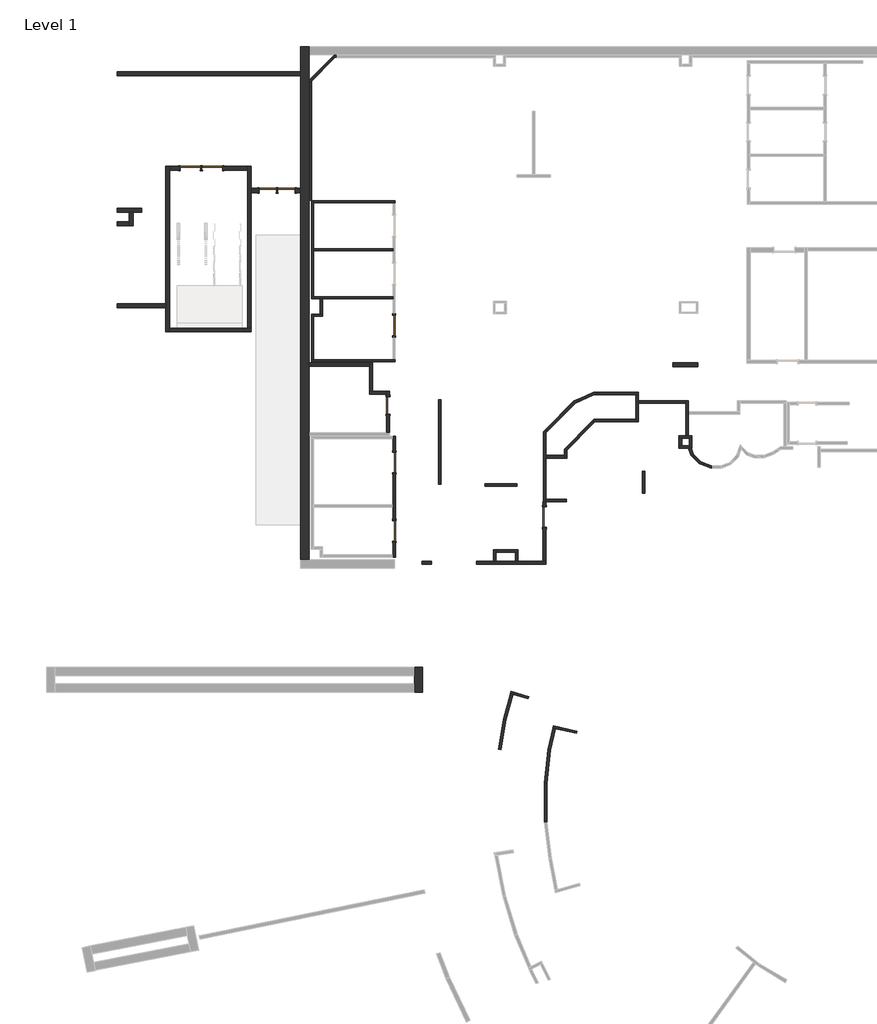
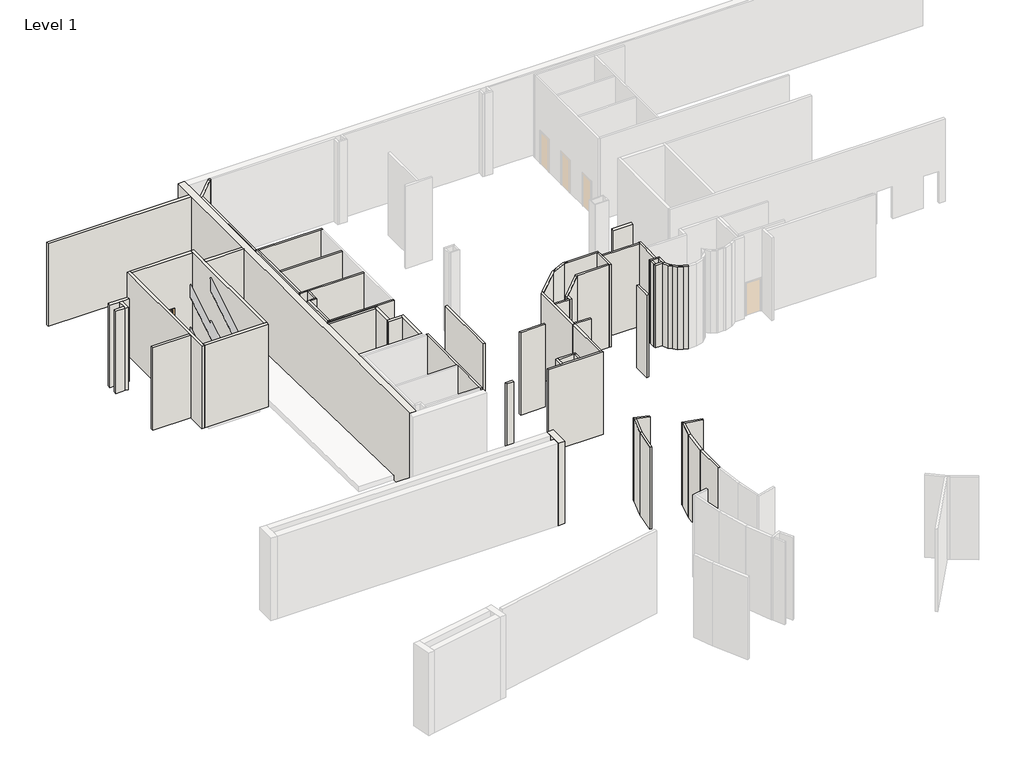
# One storey, part 4 of 10: 64 walls, 9 doors.
"""IFC4 building model written with IfcOpenShell, lengths in millimetres."""

from ifc_helpers import new_model, si_unit, frame, origin, origin_with_axes, place, context, project, spatial, polyline, outline, extrude, faceted_brep, transform, mapped, element, save
from components import door_f75d31f8, door_74220ae7, door_8244bb97, door_bd3f6991, door_55d8558a, door_9fd2ff77, door_97d772aa, door_dc1560be

model = new_model("IFC4")

# Units and contexts
model_context = context("Model", 3, world=origin())
ifc_project = project(units=[si_unit("LENGTHUNIT", "METRE", prefix="MILLI")], contexts=[model_context])

# Site, building, storey
site = spatial("IfcSite", under=ifc_project)
building = spatial("IfcBuilding", under=site)
storey = spatial("IfcBuildingStorey", under=building, Name="Level 1", Elevation=0.0)

# Doors
placement = place(None, origin())
door_shape = door_f75d31f8(model_context)
element("IfcDoor", 1, ObjectType="Single-Flush : 34\" x 84\"", at=placement, inside=storey, context=model_context, shape_type="MappedRepresentation", body=[
    mapped(door_shape, transform((-4647.4900784, 31230.8191112, 0.0), x_axis=(1.0, 0.0, 0.0), y_axis=(0.0, 1.0, 0.0), z_axis=(0.0, 0.0, 1.0))),
])
door_2_shape = door_74220ae7(model_context)
element("IfcDoor", 2, ObjectType="Single-Flush : 34\" x 84\"", at=placement, inside=storey, context=model_context, shape_type="MappedRepresentation", body=[
    mapped(door_2_shape, transform((-5552.2063534, 31230.8191112, 0.0), x_axis=(-1.0, 0.0, 0.0), y_axis=(0.0, -1.0, 0.0), z_axis=(0.0, 0.0, 1.0))),
])
door_3_shape = door_8244bb97(model_context)
element("IfcDoor", 3, ObjectType="Single-Flush : 34\" x 84\"", at=placement, inside=storey, context=model_context, shape_type="MappedRepresentation", body=[
    mapped(door_3_shape, transform((367.4225485, 20671.2949956, 0.0), x_axis=(0.0, 1.0, 0.0), y_axis=(-1.0, 0.0, 0.0), z_axis=(0.0, 0.0, 1.0))),
])
door_4_shape = door_bd3f6991(model_context)
element("IfcDoor", 4, ObjectType="Single-Flush : 36\" x 84\"", at=placement, inside=storey, context=model_context, shape_type="MappedRepresentation", body=[
    mapped(door_4_shape, transform((-8285.7226285, 32320.9079, 0.0), x_axis=(1.0, 0.0, 0.0), y_axis=(0.0, 1.0, 0.0), z_axis=(0.0, 0.0, 1.0))),
])
door_5_shape = door_55d8558a(model_context)
element("IfcDoor", 5, ObjectType="Single-Flush : 36\" x 84\"", at=placement, inside=storey, context=model_context, shape_type="MappedRepresentation", body=[
    mapped(door_5_shape, transform((661.1099216, 17860.7669718, 0.0), x_axis=(0.0, -1.0, 0.0), y_axis=(1.0, 0.0, 0.0), z_axis=(0.0, 0.0, 1.0))),
])
element("IfcDoor", 6, ObjectType="Single-Flush : 36\" x 84\"", at=placement, inside=storey, context=model_context, shape_type="MappedRepresentation", body=[
    mapped(door_5_shape, transform((661.1099216, 14499.2449096, 0.0), x_axis=(0.0, -1.0, 0.0), y_axis=(1.0, 0.0, 0.0), z_axis=(0.0, 0.0, 1.0))),
])
door_6_shape = door_9fd2ff77(model_context)
element("IfcDoor", 7, ObjectType="Single-Flush : 36\" x 84\"", at=placement, inside=storey, context=model_context, shape_type="MappedRepresentation", body=[
    mapped(door_6_shape, transform((-9352.5226285, 32320.9079, 0.0), x_axis=(-1.0, 0.0, 0.0), y_axis=(0.0, -1.0, 0.0), z_axis=(0.0, 0.0, 1.0))),
])
door_7_shape = door_97d772aa(model_context)
element("IfcDoor", 8, ObjectType="Single-Flush : 36\" x 84\"", at=placement, inside=storey, context=model_context, shape_type="MappedRepresentation", body=[
    mapped(door_7_shape, transform((660.5677298, 24591.2594628, 0.0), x_axis=(0.0, -1.0, 0.0), y_axis=(1.0, 0.0, 0.0), z_axis=(0.0, 0.0, 1.0))),
])
door_8_shape = door_dc1560be(model_context)
element("IfcDoor", 9, ObjectType="Single-Flush : 36\" x 84\"", at=placement, inside=storey, context=model_context, shape_type="MappedRepresentation", body=[
    mapped(door_8_shape, transform((8055.6849216, 15174.3992736, 0.0), x_axis=(0.0, -1.0, 0.0), y_axis=(1.0, 0.0, 0.0), z_axis=(0.0, 0.0, 1.0))),
])

# Walls
element("IfcWall", 10, ObjectType="N3A/B", at=placement, inside=storey, context=model_context, shape_type="Brep", body=[
    faceted_brep([(445.2100485, 21103.0949956, 2133.6), (445.2100485, 21103.0949956, 0.0), (445.2100485, 21358.6824956, 0.0), (445.2100485, 21358.6824956, 5486.4), (445.2100485, 19333.1824093, 5486.4), (445.2100485, 19333.1824093, 0.0), (445.2100485, 20239.4949956, 0.0), (445.2100485, 20239.4949956, 2133.6), (289.6350485, 21358.6824956, 0.0), (289.6350485, 21203.1074956, 0.0), (289.6350485, 21103.0949956, 0.0), (289.6350485, 21103.0949956, 2133.6), (289.6350485, 20239.4949956, 2133.6), (289.6350485, 20239.4949956, 0.0), (289.6350485, 19333.1824093, 0.0), (289.6350485, 19333.1824093, 5486.4), (289.6350485, 21203.1074956, 5486.4), (289.6350485, 21358.6824956, 5486.4)], [[[0, 1, 2, 3, 4, 5, 6, 7]], [[8, 9, 10, 11, 12, 13, 14, 15, 16, 17]], [[2, 1, 10, 9, 8]], [[6, 5, 14, 13]], [[4, 3, 17, 16, 15]], [[3, 2, 8, 17]], [[5, 4, 15, 14]], [[11, 10, 1, 0]], [[12, 11, 0, 7]], [[13, 12, 7, 6]]]),
])
element("IfcWall", 11, ObjectType="N3A/B", at=placement, inside=storey, context=model_context, shape_type="Brep", body=[
    faceted_brep([(289.6350485, 21358.6824956, 0.0), (-405.6900784, 21358.6824956, 0.0), (-561.2650784, 21358.6824956, 0.0), (-561.2650784, 21358.6824956, 5486.4), (-405.6900784, 21358.6824956, 5486.4), (289.6350485, 21358.6824956, 5486.4), (289.6350485, 21203.1074956, 0.0), (289.6350485, 21203.1074956, 5486.4), (-561.2650784, 21203.1074956, 5486.4), (-561.2650784, 21203.1074956, 0.0)], [[[0, 1, 2, 3, 4, 5]], [[6, 7, 8, 9]], [[2, 1, 0, 6, 9]], [[5, 4, 3, 8, 7]], [[3, 2, 9, 8]], [[0, 5, 7, 6]]]),
])
element("IfcWall", 12, ObjectType="N3A/B", at=placement, inside=storey, context=model_context, shape_type="Brep", body=[
    faceted_brep([(-405.6900784, 21358.6824956, 0.0), (-405.6900784, 22755.6824958, 0.0), (-405.6900784, 22755.6824958, 5486.4), (-405.6900784, 21358.6824956, 5486.4), (-561.2650784, 21358.6824956, 0.0), (-561.2650784, 21358.6824956, 5486.4), (-561.2650784, 22600.1074958, 5486.4), (-561.2650784, 22755.6824958, 5486.4), (-561.2650784, 22755.6824958, 0.0), (-561.2650784, 22600.1074958, 0.0)], [[[0, 1, 2, 3]], [[4, 5, 6, 7, 8, 9]], [[1, 0, 4, 9, 8]], [[3, 2, 7, 6, 5]], [[2, 1, 8, 7]], [[0, 3, 5, 4]]]),
])
element("IfcWall", 13, ObjectType="N3A/B", at=placement, inside=storey, context=model_context, shape_type="SweptSolid", body=[
    extrude(outline(polyline([(-3529.8900784, 22755.6824958), (-561.2650784, 22755.6824958), (-561.2650784, 22600.1074958), (-3529.8900784, 22600.1074958), (-3529.8900784, 22755.6824958)])), origin_with_axes(), (0.0, 0.0, 1.0), 5486.4),
])
element("IfcWall", 14, ObjectType="N3A/B", at=placement, inside=storey, context=model_context, shape_type="Brep", body=[
    faceted_brep([(4702.8849216, 12857.8760363, 0.0), (8125.5349216, 12857.8760363, 0.0), (8125.5349216, 12857.8760363, 5486.4), (4702.8849216, 12857.8760363, 5486.4), (4702.8849216, 13013.4510363, 0.0), (4702.8849216, 13013.4510363, 5486.4), (5537.9099216, 13013.4510363, 5486.4), (5661.7349216, 13013.4510363, 5486.4), (6633.2849216, 13013.4510363, 5486.4), (6757.1099216, 13013.4510363, 5486.4), (7985.8349216, 13013.4510363, 5486.4), (8125.5349216, 13013.4510363, 5486.4), (8125.5349216, 13013.4510363, 0.0), (7985.8349216, 13013.4510363, 0.0), (6757.1099216, 13013.4510363, 0.0), (6633.2849216, 13013.4510363, 0.0), (5661.7349216, 13013.4510363, 0.0), (5537.9099216, 13013.4510363, 0.0)], [[[0, 1, 2, 3]], [[4, 5, 6, 7, 8, 9, 10, 11, 12, 13, 14, 15, 16, 17]], [[1, 0, 4, 17, 16, 15, 14, 13, 12]], [[3, 2, 11, 10, 9, 8, 7, 6, 5]], [[0, 3, 5, 4]], [[2, 1, 12, 11]]]),
])
element("IfcWall", 15, ObjectType="N3A/B", at=placement, inside=storey, context=model_context, shape_type="SweptSolid", body=[
    extrude(outline(polyline([(2493.0849216, 12857.8760363), (2032.7099216, 12857.8760363), (2032.7099216, 13013.4510363), (2493.0849216, 13013.4510363), (2493.0849216, 12857.8760363)])), origin_with_axes(), (0.0, 0.0, 1.0), 5486.4),
])
element("IfcWall", 16, ObjectType="N15A/B", at=placement, inside=storey, context=model_context, shape_type="SweptSolid", body=[
    extrude(outline(polyline([(5134.0625678, 16818.8594628), (6695.1974216, 16818.8594628), (6695.1974216, 16695.0344628), (5134.0625678, 16695.0344628), (5134.0625678, 16818.8594628)])), origin_with_axes(), (0.0, 0.0, 1.0), 5486.4),
])
element("IfcWall", 17, ObjectType="F1C", at=placement, inside=storey, context=model_context, shape_type="Brep", body=[
    faceted_brep([(714.5427298, 22915.4941112, 0.0), (606.5927298, 22915.4941112, 0.0), (-3298.6705211, 22915.4941112, 0.0), (-3406.6205211, 22915.4941112, 0.0), (-3406.6205211, 22915.4941112, 5486.4), (-3298.6705211, 22915.4941112, 5486.4), (606.5927298, 22915.4941112, 5486.4), (714.5427298, 22915.4941112, 5486.4), (714.5427298, 22807.5441112, 0.0), (714.5427298, 22807.5441112, 5486.4), (-3406.6205211, 22807.5441112, 5486.4), (-3406.6205211, 22807.5441112, 0.0)], [[[0, 1, 2, 3, 4, 5, 6, 7]], [[8, 9, 10, 11]], [[3, 2, 1, 0, 8, 11]], [[7, 6, 5, 4, 10, 9]], [[4, 3, 11, 10]], [[0, 7, 9, 8]]]),
])
element("IfcWall", 18, ObjectType="F1C", at=placement, inside=storey, context=model_context, shape_type="Brep", body=[
    faceted_brep([(-3298.6705211, 22915.4941112, 0.0), (-3298.6705211, 25045.2844628, 0.0), (-3298.6705211, 25153.2344628, 0.0), (-3298.6705211, 25153.2344628, 5486.4), (-3298.6705211, 25045.2844628, 5486.4), (-3298.6705211, 22915.4941112, 5486.4), (-3406.6205211, 22915.4941112, 0.0), (-3406.6205211, 22915.4941112, 5486.4), (-3406.6205211, 25153.2344628, 5486.4), (-3406.6205211, 25153.2344628, 0.0)], [[[0, 1, 2, 3, 4, 5]], [[6, 7, 8, 9]], [[2, 1, 0, 6, 9]], [[5, 4, 3, 8, 7]], [[3, 2, 9, 8]], [[0, 5, 7, 6]]]),
])
element("IfcWall", 19, ObjectType="F1C", at=placement, inside=storey, context=model_context, shape_type="Brep", body=[
    faceted_brep([(-3298.6705211, 25045.2844628, 0.0), (-2866.8705211, 25045.2844628, 0.0), (-2866.8705211, 25045.2844628, 5486.4), (-3298.6705211, 25045.2844628, 5486.4), (-3298.6705211, 25153.2344628, 0.0), (-3298.6705211, 25153.2344628, 5486.4), (-2974.8205211, 25153.2344628, 5486.4), (-2866.8705211, 25153.2344628, 5486.4), (-2866.8705211, 25153.2344628, 0.0), (-2974.8205211, 25153.2344628, 0.0)], [[[0, 1, 2, 3]], [[4, 5, 6, 7, 8, 9]], [[1, 0, 4, 9, 8]], [[3, 2, 7, 6, 5]], [[2, 1, 8, 7]], [[0, 3, 5, 4]]]),
])
element("IfcWall", 20, ObjectType="F1C", at=placement, inside=storey, context=model_context, shape_type="SweptSolid", body=[
    extrude(outline(polyline([(-2866.8705211, 25908.8844628), (-2866.8705211, 25153.2344628), (-2974.8205211, 25153.2344628), (-2974.8205211, 25908.8844628), (-2866.8705211, 25908.8844628)])), origin_with_axes(), (0.0, 0.0, 1.0), 5486.4),
])
element("IfcWall", 21, ObjectType="F1C", at=placement, inside=storey, context=model_context, shape_type="Brep", body=[
    faceted_brep([(606.5927298, 26016.8344628, 0.0), (-3298.6705211, 26016.8344628, 0.0), (-3406.6205211, 26016.8344628, 0.0), (-3406.6205211, 26016.8344628, 5486.4), (-3298.6705211, 26016.8344628, 5486.4), (606.5927298, 26016.8344628, 5486.4), (606.5927298, 25908.8844628, 0.0), (606.5927298, 25908.8844628, 5486.4), (-2866.8705211, 25908.8844628, 5486.4), (-2974.8205211, 25908.8844628, 5486.4), (-3406.6205211, 25908.8844628, 5486.4), (-3406.6205211, 25908.8844628, 0.0), (-2974.8205211, 25908.8844628, 0.0), (-2866.8705211, 25908.8844628, 0.0)], [[[0, 1, 2, 3, 4, 5]], [[6, 7, 8, 9, 10, 11, 12, 13]], [[2, 1, 0, 6, 13, 12, 11]], [[5, 4, 3, 10, 9, 8, 7]], [[3, 2, 11, 10]], [[0, 5, 7, 6]]]),
])
element("IfcWall", 22, ObjectType="F1C", at=placement, inside=storey, context=model_context, shape_type="Brep", body=[
    faceted_brep([(-3298.6705211, 26016.8344628, 0.0), (-3298.6705211, 28263.464287, 0.0), (-3298.6705211, 28371.414287, 0.0), (-3298.6705211, 30618.0441112, 0.0), (-3298.6705211, 30725.9941112, 0.0), (-3298.6705211, 30725.9941112, 5486.4), (-3298.6705211, 30618.0441112, 5486.4), (-3298.6705211, 28371.414287, 5486.4), (-3298.6705211, 28263.464287, 5486.4), (-3298.6705211, 26016.8344628, 5486.4), (-3406.6205211, 26016.8344628, 0.0), (-3406.6205211, 26016.8344628, 5486.4), (-3406.6205211, 30725.9941112, 5486.4), (-3406.6205211, 30725.9941112, 0.0)], [[[0, 1, 2, 3, 4, 5, 6, 7, 8, 9]], [[10, 11, 12, 13]], [[4, 3, 2, 1, 0, 10, 13]], [[9, 8, 7, 6, 5, 12, 11]], [[5, 4, 13, 12]], [[0, 9, 11, 10]]]),
])
element("IfcWall", 23, ObjectType="F1C", at=placement, inside=storey, context=model_context, shape_type="Brep", body=[
    faceted_brep([(-3298.6705211, 30618.0441112, 0.0), (606.5927298, 30618.0441112, 0.0), (714.5427298, 30618.0441112, 0.0), (714.5427298, 30618.0441112, 5486.4), (606.5927298, 30618.0441112, 5486.4), (-3298.6705211, 30618.0441112, 5486.4), (-3298.6705211, 30725.9941112, 0.0), (-3298.6705211, 30725.9941112, 5486.4), (714.5427298, 30725.9941112, 5486.4), (714.5427298, 30725.9941112, 0.0)], [[[0, 1, 2, 3, 4, 5]], [[6, 7, 8, 9]], [[2, 1, 0, 6, 9]], [[5, 4, 3, 8, 7]], [[3, 2, 9, 8]], [[0, 5, 7, 6]]]),
])
element("IfcWall", 24, ObjectType="F1C", at=placement, inside=storey, context=model_context, shape_type="SweptSolid", body=[
    extrude(outline(polyline([(606.5927298, 28263.464287), (-3298.6705211, 28263.464287), (-3298.6705211, 28371.414287), (606.5927298, 28371.414287), (606.5927298, 28263.464287)])), origin_with_axes(), (0.0, 0.0, 1.0), 5486.4),
])
element("IfcWall", 25, ObjectType="F1C", at=placement, inside=storey, context=model_context, shape_type="Brep", body=[
    faceted_brep([(-2184.8718916, 37874.3978474, 0.0), (-2283.5612456, 37874.3978474, 0.0), (-2283.5612456, 37874.3978474, 5486.4), (-2184.8718916, 37874.3978474, 5486.4), (-2184.8718916, 37766.4478474, 0.0), (-2184.8718916, 37766.4478474, 5486.4), (-2238.8468916, 37766.4478474, 5486.4), (-2391.5112456, 37766.4478474, 5486.4), (-2391.5112456, 37766.4478474, 0.0), (-2238.8468916, 37766.4478474, 0.0)], [[[0, 1, 2, 3]], [[4, 5, 6, 7, 8, 9]], [[1, 0, 4, 9, 8]], [[3, 2, 7, 6, 5]], [[0, 3, 5, 4]], [[2, 1, 8, 7]]]),
])
element("IfcWall", 26, ObjectType="F1C", at=placement, inside=storey, context=model_context, shape_type="Brep", body=[
    faceted_brep([(-2391.5112456, 37766.4478474, 0.0), (-3498.6955211, 36659.263572, 0.0), (-3498.6955211, 36659.263572, 5486.4), (-2391.5112456, 37766.4478474, 5486.4), (-2238.8468916, 37766.4478474, 0.0), (-2238.8468916, 37766.4478474, 5486.4), (-3390.7455211, 36614.5492179, 5486.4), (-3498.6955211, 36506.5992179, 5486.4), (-3498.6955211, 36506.5992179, 0.0), (-3390.7455211, 36614.5492179, 0.0)], [[[0, 1, 2, 3]], [[4, 5, 6, 7, 8, 9]], [[1, 0, 4, 9, 8]], [[3, 2, 7, 6, 5]], [[2, 1, 8, 7]], [[0, 3, 5, 4]]]),
])
element("IfcWall", 27, ObjectType="F1C", at=placement, inside=storey, context=model_context, shape_type="SweptSolid", body=[
    extrude(outline(polyline([(-3498.6955211, 30744.106395), (-3498.6955211, 36506.5992179), (-3390.7455211, 36614.5492179), (-3390.7455211, 30744.106395), (-3498.6955211, 30744.106395)])), origin_with_axes(), (0.0, 0.0, 1.0), 5486.4),
])
element("IfcWall", 28, ObjectType="F4A", at=placement, inside=storey, context=model_context, shape_type="Brep", body=[
    faceted_brep([(8467.3225039, 4808.3640344, 0.0), (8587.9738772, 4780.5094701, 0.0), (9616.6041749, 4543.031454, 0.0), (9616.6041749, 4543.031454, 5486.4), (8587.9738772, 4780.5094701, 5486.4), (8467.3225039, 4808.3640344, 5486.4), (8495.1770682, 4929.0154077, 0.0), (8495.1770682, 4929.0154077, 5486.4), (9644.4587392, 4663.6828272, 5486.4), (9644.4587392, 4663.6828272, 0.0)], [[[0, 1, 2, 3, 4, 5]], [[6, 7, 8, 9]], [[2, 1, 0, 6, 9]], [[3, 2, 9, 8]], [[5, 4, 3, 8, 7]], [[0, 5, 7, 6]]]),
])
element("IfcWall", 29, ObjectType="F4A", at=placement, inside=storey, context=model_context, shape_type="Brep", body=[
    faceted_brep([(6381.3388805, 6487.5593194, 0.0), (6500.36711, 6453.4285238, 0.0), (7246.5825488, 6239.45469, 0.0), (7246.5825488, 6239.45469, 5486.4), (6500.36711, 6453.4285238, 5486.4), (6381.3388805, 6487.5593194, 5486.4), (6415.4696761, 6606.5875489, 0.0), (6415.4696761, 6606.5875489, 5486.4), (7280.7133444, 6358.4829195, 5486.4), (7280.7133444, 6358.4829195, 0.0)], [[[0, 1, 2, 3, 4, 5]], [[6, 7, 8, 9]], [[2, 1, 0, 6, 9]], [[3, 2, 9, 8]], [[5, 4, 3, 8, 7]], [[0, 5, 7, 6]]]),
])
element("IfcWall", 30, ObjectType="F4A", at=placement, inside=storey, context=model_context, shape_type="Brep", body=[
    faceted_brep([(8117.5974216, 15936.3992736, 0.0), (8117.5974216, 15940.635889, 0.0), (8117.5974216, 16048.585889, 0.0), (8117.5974216, 18080.2048863, 0.0), (8117.5974216, 18204.0298863, 0.0), (8117.5974216, 19326.3351564, 0.0), (8117.5974216, 19501.4501508, 0.0), (8117.5974216, 19501.4501508, 5486.4), (8117.5974216, 19326.3351564, 5486.4), (8117.5974216, 18204.0298863, 5486.4), (8117.5974216, 18080.2048863, 5486.4), (8117.5974216, 16048.585889, 5486.4), (8117.5974216, 15940.635889, 5486.4), (8117.5974216, 15936.3992736, 5486.4), (7993.7724216, 15936.3992736, 0.0), (7993.7724216, 15936.3992736, 5486.4), (7993.7724216, 19377.6251508, 5486.4), (7993.7724216, 19377.6251508, 0.0)], [[[0, 1, 2, 3, 4, 5, 6, 7, 8, 9, 10, 11, 12, 13]], [[14, 15, 16, 17]], [[6, 5, 4, 3, 2, 1, 0, 14, 17]], [[13, 12, 11, 10, 9, 8, 7, 16, 15]], [[0, 13, 15, 14]], [[7, 6, 17, 16]]]),
])
element("IfcWall", 31, ObjectType="F4A", at=placement, inside=storey, context=model_context, shape_type="Brep", body=[
    faceted_brep([(8117.5974216, 19326.3351564, 0.0), (9570.4499877, 20779.1877225, 0.0), (9814.7728891, 21023.5106238, 0.0), (9814.7728891, 21023.5106238, 5486.4), (9570.4499877, 20779.1877225, 5486.4), (8117.5974216, 19326.3351564, 5486.4), (8117.5974216, 19501.4501508, 0.0), (8117.5974216, 19501.4501508, 5486.4), (9499.1203134, 20882.9730426, 5486.4), (9499.1203134, 20882.9730426, 0.0)], [[[0, 1, 2, 3, 4, 5]], [[6, 7, 8, 9]], [[2, 1, 0, 6, 9]], [[5, 4, 3, 8, 7]], [[3, 2, 9, 8]], [[0, 5, 7, 6]]]),
])
element("IfcWall", 32, ObjectType="F4A", at=placement, inside=storey, context=model_context, shape_type="Brep", body=[
    faceted_brep([(9570.4499877, 20779.1877225, 0.0), (10485.5081251, 21186.597854, 0.0), (10763.6236287, 21310.422854, 0.0), (10763.6236287, 21310.422854, 5486.4), (10485.5081251, 21186.597854, 5486.4), (9570.4499877, 20779.1877225, 5486.4), (9814.7728891, 21023.5106238, 0.0), (9814.7728891, 21023.5106238, 5486.4), (10459.1883089, 21310.422854, 5486.4), (10459.1883089, 21310.422854, 0.0)], [[[0, 1, 2, 3, 4, 5]], [[6, 7, 8, 9]], [[2, 1, 0, 6, 9]], [[5, 4, 3, 8, 7]], [[3, 2, 9, 8]], [[0, 5, 7, 6]]]),
])
element("IfcWall", 33, ObjectType="F4A", at=placement, inside=storey, context=model_context, shape_type="Brep", body=[
    faceted_brep([(12662.6099216, 21310.422854, 0.0), (10763.6236287, 21310.422854, 0.0), (10763.6236287, 21310.422854, 5486.4), (12662.6099216, 21310.422854, 5486.4), (12662.6099216, 21186.597854, 0.0), (12662.6099216, 21186.597854, 5486.4), (12538.7849216, 21186.597854, 5486.4), (10485.5081251, 21186.597854, 5486.4), (10485.5081251, 21186.597854, 0.0), (12538.7849216, 21186.597854, 0.0)], [[[0, 1, 2, 3]], [[4, 5, 6, 7, 8, 9]], [[1, 0, 4, 9, 8]], [[3, 2, 7, 6, 5]], [[0, 3, 5, 4]], [[2, 1, 8, 7]]]),
])
element("IfcWall", 34, ObjectType="F4A", at=placement, inside=storey, context=model_context, shape_type="Brep", body=[
    faceted_brep([(12538.7849216, 21186.597854, 0.0), (12538.7849216, 19978.5103534, 0.0), (12538.7849216, 19854.6853534, 0.0), (12538.7849216, 19854.6853534, 5486.4), (12538.7849216, 19978.5103534, 5486.4), (12538.7849216, 21186.597854, 5486.4), (12662.6099216, 21186.597854, 0.0), (12662.6099216, 21186.597854, 5486.4), (12662.6099216, 20904.022854, 5486.4), (12662.6099216, 20780.197854, 5486.4), (12662.6099216, 19854.6853534, 5486.4), (12662.6099216, 19854.6853534, 0.0), (12662.6099216, 20780.197854, 0.0), (12662.6099216, 20904.022854, 0.0)], [[[0, 1, 2, 3, 4, 5]], [[6, 7, 8, 9, 10, 11, 12, 13]], [[2, 1, 0, 6, 13, 12, 11]], [[5, 4, 3, 10, 9, 8, 7]], [[3, 2, 11, 10]], [[0, 5, 7, 6]]]),
])
element("IfcWall", 35, ObjectType="F4A", at=placement, inside=storey, context=model_context, shape_type="Brep", body=[
    faceted_brep([(12538.7849216, 19978.5103534, 0.0), (10478.2663278, 19978.5103534, 0.0), (10478.2663278, 19978.5103534, 5486.4), (12538.7849216, 19978.5103534, 5486.4), (12538.7849216, 19854.6853534, 0.0), (12538.7849216, 19854.6853534, 5486.4), (10529.5563222, 19854.6853534, 5486.4), (10354.4413278, 19854.6853534, 5486.4), (10354.4413278, 19854.6853534, 0.0), (10529.5563222, 19854.6853534, 0.0)], [[[0, 1, 2, 3]], [[4, 5, 6, 7, 8, 9]], [[1, 0, 4, 9, 8]], [[3, 2, 7, 6, 5]], [[2, 1, 8, 7]], [[0, 3, 5, 4]]]),
])
element("IfcWall", 36, ObjectType="F4A", at=placement, inside=storey, context=model_context, shape_type="Brep", body=[
    faceted_brep([(10354.4413278, 19854.6853534, 0.0), (9023.1183578, 18523.3623835, 0.0), (9023.1183578, 18523.3623835, 5486.4), (10354.4413278, 19854.6853534, 5486.4), (10529.5563222, 19854.6853534, 0.0), (10529.5563222, 19854.6853534, 5486.4), (9146.9433578, 18472.0723891, 5486.4), (9023.1183578, 18348.2473891, 5486.4), (9023.1183578, 18348.2473891, 0.0), (9146.9433578, 18472.0723891, 0.0)], [[[0, 1, 2, 3]], [[4, 5, 6, 7, 8, 9]], [[1, 0, 4, 9, 8]], [[3, 2, 7, 6, 5]], [[2, 1, 8, 7]], [[0, 3, 5, 4]]]),
])
element("IfcWall", 37, ObjectType="F4A", at=placement, inside=storey, context=model_context, shape_type="Brep", body=[
    faceted_brep([(9023.1183578, 18348.2473891, 0.0), (9023.1183578, 18204.0298863, 0.0), (9023.1183578, 18080.2048863, 0.0), (9023.1183578, 18080.2048863, 5486.4), (9023.1183578, 18204.0298863, 5486.4), (9023.1183578, 18348.2473891, 5486.4), (9146.9433578, 18472.0723891, 0.0), (9146.9433578, 18472.0723891, 5486.4), (9146.9433578, 18080.2048863, 5486.4), (9146.9433578, 18080.2048863, 0.0)], [[[0, 1, 2, 3, 4, 5]], [[6, 7, 8, 9]], [[2, 1, 0, 6, 9]], [[5, 4, 3, 8, 7]], [[3, 2, 9, 8]], [[0, 5, 7, 6]]]),
])
element("IfcWall", 38, ObjectType="F4A", at=placement, inside=storey, context=model_context, shape_type="SweptSolid", body=[
    extrude(outline(polyline([(9023.1183578, 18080.2048863), (8117.5974216, 18080.2048863), (8117.5974216, 18204.0298863), (9023.1183578, 18204.0298863), (9023.1183578, 18080.2048863)])), origin_with_axes(), (0.0, 0.0, 1.0), 5486.4),
])
element("IfcWall", 39, ObjectType="F4A", at=placement, inside=storey, context=model_context, shape_type="Brep", body=[
    faceted_brep([(14994.638178, 20903.9188361, 0.0), (14994.638178, 19184.7602765, 0.0), (14994.638178, 19184.7602765, 5486.4), (14994.638178, 20903.9188361, 5486.4), (15118.463178, 20903.9188361, 0.0), (15118.463178, 20903.9188361, 5486.4), (15118.463178, 20365.8603386, 5486.4), (15118.463178, 20242.0353386, 5486.4), (15118.463178, 19184.7602765, 5486.4), (15118.463178, 19184.7602765, 0.0), (15118.463178, 20242.0353386, 0.0), (15118.463178, 20365.8603386, 0.0)], [[[0, 1, 2, 3]], [[4, 5, 6, 7, 8, 9, 10, 11]], [[1, 0, 4, 11, 10, 9]], [[3, 2, 8, 7, 6, 5]], [[0, 3, 5, 4]], [[2, 1, 9, 8]]]),
])
element("IfcWall", 40, ObjectType="F4A", at=placement, inside=storey, context=model_context, shape_type="SweptSolid", body=[
    extrude(outline(polyline([(6026.2975054, 5249.3828999), (6381.3388805, 6487.5593194), (6500.36711, 6453.4285238), (6147.4132638, 5222.5321827), (6026.2975054, 5249.3828999)])), origin_with_axes(), (0.0, 0.0, 1.0), 5486.4),
])
element("IfcWall", 41, ObjectType="F4A", at=placement, inside=storey, context=model_context, shape_type="SweptSolid", body=[
    extrude(outline(polyline([(5791.2724409, 3765.4930429), (6026.2975054, 5249.3828999), (6147.4132638, 5222.5321827), (5913.5729497, 3746.1225453), (5791.2724409, 3765.4930429)])), origin_with_axes(), (0.0, 0.0, 1.0), 5486.4),
])
element("IfcWall", 42, ObjectType="F4A", at=placement, inside=storey, context=model_context, shape_type="Brep", body=[
    faceted_brep([(14673.9724271, 19060.9352765, 0.0), (14797.7974271, 19060.9352765, 0.0), (15175.6224271, 19060.9352765, 0.0), (15299.4474271, 19060.9352765, 0.0), (15299.4474271, 19060.9352765, 5486.4), (15175.6224271, 19060.9352765, 5486.4), (14797.7974271, 19060.9352765, 5486.4), (14673.9724271, 19060.9352765, 5486.4), (14673.9724271, 19184.7602765, 0.0), (14673.9724271, 19184.7602765, 5486.4), (14994.638178, 19184.7602765, 5486.4), (15118.463178, 19184.7602765, 5486.4), (15299.4474271, 19184.7602765, 5486.4), (15299.4474271, 19184.7602765, 0.0), (15118.463178, 19184.7602765, 0.0), (14994.638178, 19184.7602765, 0.0)], [[[0, 1, 2, 3, 4, 5, 6, 7]], [[8, 9, 10, 11, 12, 13, 14, 15]], [[3, 2, 1, 0, 8, 15, 14, 13]], [[7, 6, 5, 4, 12, 11, 10, 9]], [[4, 3, 13, 12]], [[0, 7, 9, 8]]]),
])
element("IfcWall", 43, ObjectType="F4A", at=placement, inside=storey, context=model_context, shape_type="Brep", body=[
    faceted_brep([(15175.6224271, 19060.9352765, 0.0), (15175.6224271, 18683.1102765, 0.0), (15175.6224271, 18559.2852765, 0.0), (15175.6224271, 18559.2852765, 5486.4), (15175.6224271, 18683.1102765, 5486.4), (15175.6224271, 19060.9352765, 5486.4), (15299.4474271, 19060.9352765, 0.0), (15299.4474271, 19060.9352765, 5486.4), (15299.4474271, 18559.2852765, 5486.4), (15299.4474271, 18559.2852765, 0.0)], [[[0, 1, 2, 3, 4, 5]], [[6, 7, 8, 9]], [[2, 1, 0, 6, 9]], [[5, 4, 3, 8, 7]], [[3, 2, 9, 8]], [[0, 5, 7, 6]]]),
])
element("IfcWall", 44, ObjectType="F4A", at=placement, inside=storey, context=model_context, shape_type="Brep", body=[
    faceted_brep([(15175.6224271, 18683.1102765, 0.0), (14797.7974271, 18683.1102765, 0.0), (14673.9724271, 18683.1102765, 0.0), (14673.9724271, 18683.1102765, 5486.4), (14797.7974271, 18683.1102765, 5486.4), (15175.6224271, 18683.1102765, 5486.4), (15175.6224271, 18559.2852765, 0.0), (15175.6224271, 18559.2852765, 5486.4), (15132.2708279, 18559.2852765, 5486.4), (14673.9724271, 18559.2852765, 5486.4), (14673.9724271, 18559.2852765, 0.0), (15132.2708279, 18559.2852765, 0.0)], [[[0, 1, 2, 3, 4, 5]], [[6, 7, 8, 9, 10, 11]], [[2, 1, 0, 6, 11, 10]], [[5, 4, 3, 9, 8, 7]], [[3, 2, 10, 9]], [[0, 5, 7, 6]]]),
])
element("IfcWall", 45, ObjectType="F4A", at=placement, inside=storey, context=model_context, shape_type="SweptSolid", body=[
    extrude(outline(polyline([(14797.7974271, 19060.9352765), (14797.7974271, 18683.1102765), (14673.9724271, 18683.1102765), (14673.9724271, 19060.9352765), (14797.7974271, 19060.9352765)])), origin_with_axes(), (0.0, 0.0, 1.0), 5486.4),
])
element("IfcWall", 46, ObjectType="F4A", at=placement, inside=storey, context=model_context, shape_type="Brep", body=[
    faceted_brep([(15132.2708279, 18559.2852765, 0.0), (15261.1351499, 18205.2334617, 0.0), (15261.1351499, 18205.2334617, 5486.4), (15132.2708279, 18559.2852765, 5486.4), (15264.0426406, 18559.2852765, 0.0), (15264.0426406, 18559.2852765, 5486.4), (15368.1036768, 18273.3799291, 5486.4), (15468.3138383, 17998.0547732, 5486.4), (15468.3138383, 17998.0547732, 0.0), (15368.1036768, 18273.3799291, 0.0), (15175.6224271, 18559.2852765, 0.0), (15175.6224271, 18559.2852765, 5486.4)], [[[0, 1, 2, 3]], [[4, 5, 6, 7, 8, 9]], [[1, 0, 10, 4, 9, 8]], [[3, 2, 7, 6, 5, 11]], [[2, 1, 8, 7]], [[0, 3, 11, 5, 4, 10]]]),
])
element("IfcWall", 47, ObjectType="F4A", at=placement, inside=storey, context=model_context, shape_type="Brep", body=[
    faceted_brep([(15468.3138383, 17998.0547732, 0.0), (15675.677449, 17790.6911626, 0.0), (15675.677449, 17790.6911626, 5486.4), (15468.3138383, 17998.0547732, 5486.4), (15368.1036768, 18273.3799291, 0.0), (15368.1036768, 18273.3799291, 5486.4), (15743.8239164, 17897.6596895, 5486.4), (15951.0026048, 17690.4810011, 5486.4), (15951.0026048, 17690.4810011, 0.0), (15743.8239164, 17897.6596895, 0.0)], [[[0, 1, 2, 3]], [[4, 5, 6, 7, 8, 9]], [[1, 0, 4, 9, 8]], [[3, 2, 7, 6, 5]], [[2, 1, 8, 7]], [[0, 3, 5, 4]]]),
])
element("IfcWall", 48, ObjectType="F4A", at=placement, inside=storey, context=model_context, shape_type="SweptSolid", body=[
    extrude(outline(polyline([(16247.8022675, 17582.4547583), (15951.0026048, 17690.4810011), (15743.8239164, 17897.6596895), (16269.6359559, 17706.2797583), (16247.8022675, 17582.4547583)])), origin_with_axes(), (0.0, 0.0, 1.0), 5486.4),
])
element("IfcWall", 49, ObjectType="F4A", at=placement, inside=storey, context=model_context, shape_type="SweptSolid", body=[
    extrude(outline(polyline([(12872.4029184, 16357.4228474), (12872.4029184, 17424.2228474), (12996.2279184, 17424.2228474), (12996.2279184, 16357.4228474), (12872.4029184, 16357.4228474)])), origin_with_axes(), (0.0, 0.0, 1.0), 5486.4),
])
element("IfcWall", 50, ObjectType="F4A", at=placement, inside=storey, context=model_context, shape_type="SweptSolid", body=[
    extrude(outline(polyline([(8165.7295157, 2107.5519704), (8165.7295157, 184.3110924), (8041.9045157, 176.7376309), (8041.9045157, 2114.2967528), (8165.7295157, 2107.5519704)])), origin_with_axes(), (0.0, 0.0, 1.0), 5486.4),
])
element("IfcWall", 51, ObjectType="F4A", at=placement, inside=storey, context=model_context, shape_type="SweptSolid", body=[
    extrude(outline(polyline([(8340.8145837, 3709.9449533), (8165.7295157, 2107.5519704), (8041.9045157, 2114.2967528), (8218.5170459, 3730.6691956), (8340.8145837, 3709.9449533)])), origin_with_axes(), (0.0, 0.0, 1.0), 5486.4),
])
element("IfcWall", 52, ObjectType="F4A", at=placement, inside=storey, context=model_context, shape_type="SweptSolid", body=[
    extrude(outline(polyline([(8587.9738772, 4780.5094701), (8340.8145837, 3709.9449533), (8218.5170459, 3730.6691956), (8467.3225039, 4808.3640344), (8587.9738772, 4780.5094701)])), origin_with_axes(), (0.0, 0.0, 1.0), 5486.4),
])
element("IfcWall", 53, ObjectType="F5B", at=placement, inside=storey, context=model_context, shape_type="SweptSolid", body=[
    extrude(outline(polyline([(8117.5974216, 16048.585889), (9134.6294844, 16048.585889), (9134.6294844, 15940.635889), (8117.5974216, 15940.635889), (8117.5974216, 16048.585889)])), origin_with_axes(), (0.0, 0.0, 1.0), 5486.4),
])
element("IfcWall", 54, ObjectType="N11A", at=placement, inside=storey, context=model_context, shape_type="SweptSolid", body=[
    extrude(outline(polyline([(14988.2974216, 20780.197854), (12662.6099216, 20780.197854), (12662.6099216, 20904.022854), (14988.2974216, 20904.022854), (14988.2974216, 20780.197854)])), origin_with_axes(), (0.0, 0.0, 1.0), 5486.4),
])
element("IfcWall", 55, ObjectType="N11C2", at=placement, inside=storey, context=model_context, shape_type="Brep", body=[
    faceted_brep([(7985.8349216, 14666.3992736, 2133.6), (7985.8349216, 14666.3992736, 0.0), (7985.8349216, 13013.4510363, 0.0), (7985.8349216, 13013.4510363, 5486.4), (7985.8349216, 15936.3992736, 5486.4), (7985.8349216, 15936.3992736, 0.0), (7985.8349216, 15682.3992736, 0.0), (7985.8349216, 15682.3992736, 2133.6), (8125.5349216, 13013.4510363, 0.0), (8125.5349216, 14666.3992736, 0.0), (8125.5349216, 14666.3992736, 2133.6), (8125.5349216, 15682.3992736, 2133.6), (8125.5349216, 15682.3992736, 0.0), (8125.5349216, 15936.3992736, 0.0), (8125.5349216, 15936.3992736, 5486.4), (8125.5349216, 13013.4510363, 5486.4), (7993.7724216, 15936.3992736, 0.0), (8117.5974216, 15936.3992736, 0.0), (8117.5974216, 15936.3992736, 5486.4), (7993.7724216, 15936.3992736, 5486.4)], [[[0, 1, 2, 3, 4, 5, 6, 7]], [[8, 9, 10, 11, 12, 13, 14, 15]], [[2, 1, 9, 8]], [[6, 5, 16, 17, 13, 12]], [[4, 3, 15, 14, 18, 19]], [[5, 4, 19, 18, 14, 13, 17, 16]], [[3, 2, 8, 15]], [[10, 9, 1, 0]], [[11, 10, 0, 7]], [[12, 11, 7, 6]]]),
])
element("IfcWall", 56, ObjectType="N13C", at=placement, inside=storey, context=model_context, shape_type="SweptSolid", body=[
    extrude(outline(polyline([(15596.3099216, 22573.8650535), (14377.1099216, 22573.8650535), (14377.1099216, 22758.0150535), (15596.3099216, 22758.0150535), (15596.3099216, 22573.8650535)])), origin_with_axes(), (0.0, 0.0, 1.0), 5486.4),
])
element("IfcWall", 57, ObjectType="N16A", at=placement, inside=storey, context=model_context, shape_type="SweptSolid", body=[
    extrude(outline(polyline([(2848.0623147, 16793.4594628), (2848.0623147, 20933.6594628), (2971.8873147, 20933.6594628), (2971.8873147, 16793.4594628), (2848.0623147, 16793.4594628)])), origin_with_axes(), (0.0, 0.0, 1.0), 5486.4),
])
element("IfcWall", 58, ObjectType="N1A", at=placement, inside=storey, context=model_context, shape_type="Brep", body=[
    faceted_brep([(723.0224216, 13214.1544718, 0.0), (723.0224216, 13991.2449096, 0.0), (723.0224216, 13991.2449096, 2133.6), (723.0224216, 15007.2449096, 2133.6), (723.0224216, 15007.2449096, 0.0), (723.0224216, 17352.7669718, 0.0), (723.0224216, 17352.7669718, 2133.6), (723.0224216, 18368.7669718, 2133.6), (723.0224216, 18368.7669718, 0.0), (723.0224216, 19141.8794718, 0.0), (723.0224216, 19141.8794718, 5486.4), (723.0224216, 13214.1544718, 5486.4), (599.1974216, 13991.2449096, 2133.6), (599.1974216, 13991.2449096, 0.0), (599.1974216, 13337.9794718, 0.0), (599.1974216, 13214.1544718, 0.0), (599.1974216, 13214.1544718, 5486.4), (599.1974216, 13337.9794718, 5486.4), (599.1974216, 15660.5103474, 5486.4), (599.1974216, 15784.3353474, 5486.4), (599.1974216, 19018.0544718, 5486.4), (599.1974216, 19141.8794718, 5486.4), (599.1974216, 19141.8794718, 0.0), (599.1974216, 19018.0544718, 0.0), (599.1974216, 18368.7669718, 0.0), (599.1974216, 18368.7669718, 2133.6), (599.1974216, 17352.7669718, 2133.6), (599.1974216, 17352.7669718, 0.0), (599.1974216, 15784.3353474, 0.0), (599.1974216, 15660.5103474, 0.0), (599.1974216, 15007.2449096, 0.0), (599.1974216, 15007.2449096, 2133.6)], [[[0, 1, 2, 3, 4, 5, 6, 7, 8, 9, 10, 11]], [[12, 13, 14, 15, 16, 17, 18, 19, 20, 21, 22, 23, 24, 25, 26, 27, 28, 29, 30, 31]], [[15, 14, 13, 1, 0]], [[24, 23, 22, 9, 8]], [[30, 29, 28, 27, 5, 4]], [[11, 10, 21, 20, 19, 18, 17, 16]], [[10, 9, 22, 21]], [[0, 11, 16, 15]], [[6, 5, 27, 26]], [[7, 6, 26, 25]], [[8, 7, 25, 24]], [[2, 1, 13, 12]], [[3, 2, 12, 31]], [[4, 3, 31, 30]]]),
])
element("IfcWall", 59, ObjectType="N1A", at=placement, inside=storey, context=model_context, shape_type="Brep", body=[
    faceted_brep([(5661.7349216, 13013.4510363, 0.0), (5661.7349216, 13443.7888474, 0.0), (5661.7349216, 13567.6138474, 0.0), (5661.7349216, 13567.6138474, 5486.4), (5661.7349216, 13443.7888474, 5486.4), (5661.7349216, 13013.4510363, 5486.4), (5537.9099216, 13013.4510363, 0.0), (5537.9099216, 13013.4510363, 5486.4), (5537.9099216, 13567.6138474, 5486.4), (5537.9099216, 13567.6138474, 0.0)], [[[0, 1, 2, 3, 4, 5]], [[6, 7, 8, 9]], [[2, 1, 0, 6, 9]], [[5, 4, 3, 8, 7]], [[3, 2, 9, 8]], [[0, 5, 7, 6]]]),
])
element("IfcWall", 60, ObjectType="N1A", at=placement, inside=storey, context=model_context, shape_type="Brep", body=[
    faceted_brep([(5661.7349216, 13443.7888474, 0.0), (6633.2849216, 13443.7888474, 0.0), (6757.1099216, 13443.7888474, 0.0), (6757.1099216, 13443.7888474, 5486.4), (6633.2849216, 13443.7888474, 5486.4), (5661.7349216, 13443.7888474, 5486.4), (5661.7349216, 13567.6138474, 0.0), (5661.7349216, 13567.6138474, 5486.4), (6757.1099216, 13567.6138474, 5486.4), (6757.1099216, 13567.6138474, 0.0)], [[[0, 1, 2, 3, 4, 5]], [[6, 7, 8, 9]], [[2, 1, 0, 6, 9]], [[5, 4, 3, 8, 7]], [[3, 2, 9, 8]], [[0, 5, 7, 6]]]),
])
element("IfcWall", 61, ObjectType="N1A", at=placement, inside=storey, context=model_context, shape_type="SweptSolid", body=[
    extrude(outline(polyline([(6633.2849216, 13013.4510363), (6633.2849216, 13443.7888474), (6757.1099216, 13443.7888474), (6757.1099216, 13013.4510363), (6633.2849216, 13013.4510363)])), origin_with_axes(), (0.0, 0.0, 1.0), 5486.4),
])
element("IfcWall", 62, ObjectType="N1B", at=placement, inside=storey, context=model_context, shape_type="SweptSolid", body=[
    extrude(outline(polyline([(-3961.3009364, 36878.5219957), (-12952.9009364, 36878.5219957), (-12952.9009364, 37062.6719957), (-3961.3009364, 37062.6719957), (-3961.3009364, 36878.5219957)])), origin_with_axes(), (0.0, 0.0, 1.0), 5486.4),
])
element("IfcWall", 63, ObjectType="N1B", at=placement, inside=storey, context=model_context, shape_type="Brep", body=[
    faceted_brep([(-10568.4838985, 32412.9829, 0.0), (-10568.4838985, 25649.8760638, 0.0), (-10568.4838985, 25465.7260638, 0.0), (-10568.4838985, 24278.8640388, 0.0), (-10568.4838985, 24278.8640388, 5486.4), (-10568.4838985, 25465.7260638, 5486.4), (-10568.4838985, 25649.8760638, 5486.4), (-10568.4838985, 32412.9829, 5486.4), (-10384.3338985, 32412.9829, 0.0), (-10384.3338985, 32412.9829, 5486.4), (-10384.3338985, 32228.8329, 5486.4), (-10384.3338985, 24463.0140388, 5486.4), (-10384.3338985, 24278.8640388, 5486.4), (-10384.3338985, 24278.8640388, 0.0), (-10384.3338985, 24463.0140388, 0.0), (-10384.3338985, 32228.8329, 0.0)], [[[0, 1, 2, 3, 4, 5, 6, 7]], [[8, 9, 10, 11, 12, 13, 14, 15]], [[3, 2, 1, 0, 8, 15, 14, 13]], [[7, 6, 5, 4, 12, 11, 10, 9]], [[4, 3, 13, 12]], [[0, 7, 9, 8]]]),
])
element("IfcWall", 64, ObjectType="N1B", at=placement, inside=storey, context=model_context, shape_type="Brep", body=[
    faceted_brep([(-10384.3338985, 24278.8640388, 0.0), (-6364.8476285, 24278.8640388, 0.0), (-6364.8476285, 24278.8640388, 5486.4), (-10384.3338985, 24278.8640388, 5486.4), (-10384.3338985, 24463.0140388, 0.0), (-10384.3338985, 24463.0140388, 5486.4), (-6548.9976285, 24463.0140388, 5486.4), (-6364.8476285, 24463.0140388, 5486.4), (-6364.8476285, 24463.0140388, 0.0), (-6548.9976285, 24463.0140388, 0.0)], [[[0, 1, 2, 3]], [[4, 5, 6, 7, 8, 9]], [[1, 0, 4, 9, 8]], [[3, 2, 7, 6, 5]], [[2, 1, 8, 7]], [[0, 3, 5, 4]]]),
])
element("IfcWall", 65, ObjectType="N1B", at=placement, inside=storey, context=model_context, shape_type="Brep", body=[
    faceted_brep([(-6364.8476285, 24463.0140388, 0.0), (-6364.8476285, 32412.9829, 0.0), (-6364.8476285, 32412.9829, 5486.4), (-6364.8476285, 24463.0140388, 5486.4), (-6548.9976285, 24463.0140388, 0.0), (-6548.9976285, 24463.0140388, 5486.4), (-6548.9976285, 32228.8329, 5486.4), (-6548.9976285, 32412.9829, 5486.4), (-6548.9976285, 32412.9829, 0.0), (-6548.9976285, 32228.8329, 0.0)], [[[0, 1, 2, 3]], [[4, 5, 6, 7, 8, 9]], [[1, 0, 4, 9, 8]], [[3, 2, 7, 6, 5]], [[2, 1, 8, 7]], [[0, 3, 5, 4]]]),
])
element("IfcWall", 66, ObjectType="N1B", at=placement, inside=storey, context=model_context, shape_type="SweptSolid", body=[
    extrude(outline(polyline([(0.0, -10384.3338985), (0.0, -9860.5226285), (2133.6, -9860.5226285), (2133.6, -8844.5226285), (0.0, -8844.5226285), (0.0, -8793.7226285), (2133.6, -8793.7226285), (2133.6, -7777.7226285), (0.0, -7777.7226285), (0.0, -6548.9976285), (5486.4, -6548.9976285), (5486.4, -10384.3338985), (0.0, -10384.3338985)])), frame((0.0, 32228.8329, 0.0), z_axis=(0.0, 1.0, 0.0), x_axis=(0.0, 0.0, 1.0)), (0.0, 0.0, 1.0), 184.15),
])
element("IfcWall", 67, ObjectType="N1B", at=placement, inside=storey, context=model_context, shape_type="SweptSolid", body=[
    extrude(outline(polyline([(-10568.4838985, 25465.7260638), (-12952.9009364, 25465.7260638), (-12952.9009364, 25649.8760638), (-10568.4838985, 25649.8760638), (-10568.4838985, 25465.7260638)])), origin_with_axes(), (0.0, 0.0, 1.0), 5486.4),
])
element("IfcWall", 68, ObjectType="N1B", at=placement, inside=storey, context=model_context, shape_type="Brep", body=[
    faceted_brep([(-12952.9009364, 30159.2915017, 0.0), (-12359.2884202, 30159.2915017, 0.0), (-12175.1384202, 30159.2915017, 0.0), (-11746.2194899, 30159.2915017, 0.0), (-11746.2194899, 30159.2915017, 5486.4), (-12175.1384202, 30159.2915017, 5486.4), (-12359.2884202, 30159.2915017, 5486.4), (-12952.9009364, 30159.2915017, 5486.4), (-12952.9009364, 30343.4415017, 0.0), (-12952.9009364, 30343.4415017, 5486.4), (-11746.2194899, 30343.4415017, 5486.4), (-11746.2194899, 30343.4415017, 0.0)], [[[0, 1, 2, 3, 4, 5, 6, 7]], [[8, 9, 10, 11]], [[3, 2, 1, 0, 8, 11]], [[4, 3, 11, 10]], [[7, 6, 5, 4, 10, 9]], [[0, 7, 9, 8]]]),
])
element("IfcWall", 69, ObjectType="N1B", at=placement, inside=storey, context=model_context, shape_type="Brep", body=[
    faceted_brep([(-12359.2884202, 30159.2915017, 0.0), (-12359.2884202, 29683.0415017, 0.0), (-12359.2884202, 29498.8915017, 0.0), (-12359.2884202, 29498.8915017, 5486.4), (-12359.2884202, 29683.0415017, 5486.4), (-12359.2884202, 30159.2915017, 5486.4), (-12175.1384202, 30159.2915017, 0.0), (-12175.1384202, 30159.2915017, 5486.4), (-12175.1384202, 29498.8915017, 5486.4), (-12175.1384202, 29498.8915017, 0.0)], [[[0, 1, 2, 3, 4, 5]], [[6, 7, 8, 9]], [[2, 1, 0, 6, 9]], [[5, 4, 3, 8, 7]], [[3, 2, 9, 8]], [[0, 5, 7, 6]]]),
])
element("IfcWall", 70, ObjectType="N1B", at=placement, inside=storey, context=model_context, shape_type="SweptSolid", body=[
    extrude(outline(polyline([(-12952.9009364, 29683.0415017), (-12359.2884202, 29683.0415017), (-12359.2884202, 29498.8915017), (-12952.9009364, 29498.8915017), (-12952.9009364, 29683.0415017)])), origin_with_axes(), (0.0, 0.0, 1.0), 5486.4),
])
element("IfcWall", 71, ObjectType="N5C", at=placement, inside=storey, context=model_context, shape_type="SweptSolid", body=[
    extrude(outline(polyline([(0.0, -6364.8476285), (0.0, -5984.0063534), (2133.6, -5984.0063534), (2133.6, -5120.4063534), (0.0, -5120.4063534), (0.0, -5079.2900784), (2133.6, -5079.2900784), (2133.6, -4215.6900784), (0.0, -4215.6900784), (0.0, -3936.2900784), (5486.4, -3936.2900784), (5486.4, -6364.8476285), (0.0, -6364.8476285)])), frame((0.0, 31129.2191112, 0.0), z_axis=(0.0, 1.0, 0.0), x_axis=(0.0, 0.0, 1.0)), (0.0, 0.0, 1.0), 203.2),
])
element("IfcWall", 72, ObjectType="N9A", at=placement, inside=storey, context=model_context, shape_type="Brep", body=[
    faceted_brep([(2058.1099216, 6578.4228474, 0.0), (2058.1099216, 7797.6229997, 0.0), (2058.1099216, 7797.6229997, 5486.4), (2058.1099216, 6578.4228474, 5486.4), (1651.7099216, 6578.4228474, 0.0), (1651.7099216, 6578.4228474, 5486.4), (1651.7099216, 6984.8228474, 5486.4), (1651.7099216, 7391.2229997, 5486.4), (1651.7099216, 7797.6229997, 5486.4), (1651.7099216, 7797.6229997, 0.0), (1651.7099216, 7391.2229997, 0.0), (1651.7099216, 6984.8228474, 0.0)], [[[0, 1, 2, 3]], [[4, 5, 6, 7, 8, 9, 10, 11]], [[1, 0, 4, 11, 10, 9]], [[3, 2, 8, 7, 6, 5]], [[0, 3, 5, 4]], [[2, 1, 9, 8]]]),
])
element("IfcWall", 73, ObjectType="N9A", at=placement, inside=storey, context=model_context, shape_type="Brep", body=[
    faceted_brep([(-3529.8900784, 13080.8228474, 0.0), (-3529.8900784, 19177.6074093, 0.0), (-3529.8900784, 19333.1824093, 0.0), (-3529.8900784, 22600.1074958, 0.0), (-3529.8900784, 22755.6824958, 0.0), (-3529.8900784, 37896.6228474, 0.0), (-3529.8900784, 38303.0228474, 0.0), (-3529.8900784, 38303.0228474, 5486.4), (-3529.8900784, 37896.6228474, 5486.4), (-3529.8900784, 22755.6824958, 5486.4), (-3529.8900784, 22600.1074958, 5486.4), (-3529.8900784, 19333.1824093, 5486.4), (-3529.8900784, 19177.6074093, 5486.4), (-3529.8900784, 13080.8228474, 5486.4), (-3936.2900784, 13080.8228474, 0.0), (-3936.2900784, 13080.8228474, 5486.4), (-3936.2900784, 38303.0228474, 5486.4), (-3936.2900784, 38303.0228474, 0.0)], [[[0, 1, 2, 3, 4, 5, 6, 7, 8, 9, 10, 11, 12, 13]], [[14, 15, 16, 17]], [[6, 5, 4, 3, 2, 1, 0, 14, 17]], [[13, 12, 11, 10, 9, 8, 7, 16, 15]], [[7, 6, 17, 16]], [[0, 13, 15, 14]]]),
])

save(model, "model.ifc")
